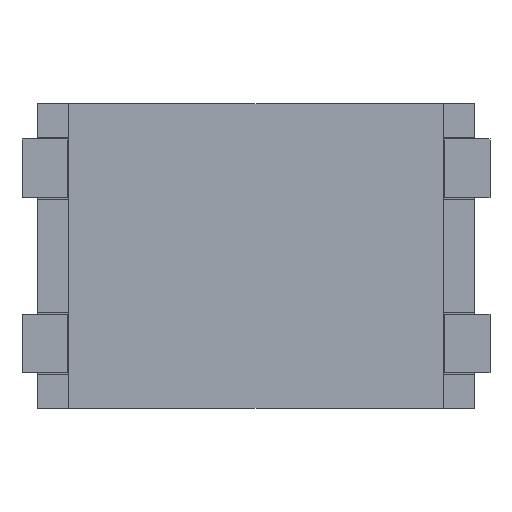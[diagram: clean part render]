
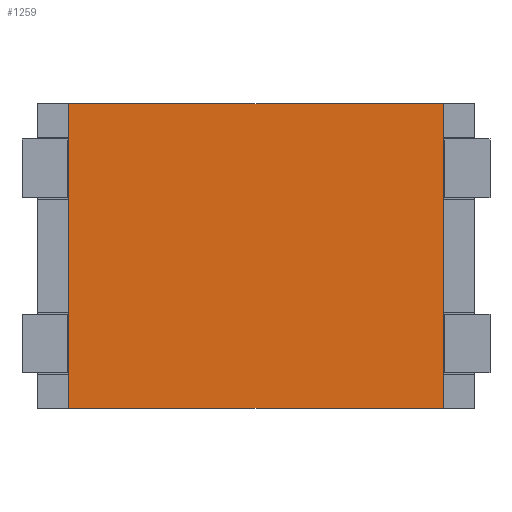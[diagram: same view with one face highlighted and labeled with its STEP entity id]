
A CAD part, front view. The second image highlights one B-rep face of the part: STEP entity #1259.
In plain terms, the highlighted planar face has unit normal (0, -1, 0).
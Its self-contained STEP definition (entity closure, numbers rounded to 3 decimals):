
#26=DIRECTION('',(1.,0.,0.));
#27=VECTOR('',#26,2.4);
#28=CARTESIAN_POINT('',(-1.2,0.,-0.975));
#29=LINE('',#28,#27);
#33=DIRECTION('',(0.,0.,-1.));
#34=VECTOR('',#33,1.95);
#35=CARTESIAN_POINT('',(-1.2,0.,0.975));
#36=LINE('',#35,#34);
#40=DIRECTION('',(-1.,0.,0.));
#41=VECTOR('',#40,2.4);
#42=CARTESIAN_POINT('',(1.2,0.,0.975));
#43=LINE('',#42,#41);
#47=DIRECTION('',(0.,0.,1.));
#48=VECTOR('',#47,1.95);
#49=CARTESIAN_POINT('',(1.2,0.,-0.975));
#50=LINE('',#49,#48);
#1056=CARTESIAN_POINT('',(-1.2,0.,-0.975));
#1057=CARTESIAN_POINT('',(1.2,0.,-0.975));
#1058=VERTEX_POINT('',#1056);
#1059=VERTEX_POINT('',#1057);
#1062=CARTESIAN_POINT('',(1.2,0.,0.975));
#1063=VERTEX_POINT('',#1062);
#1064=CARTESIAN_POINT('',(-1.2,0.,0.975));
#1065=VERTEX_POINT('',#1064);
#1244=CARTESIAN_POINT('',(0.,0.,0.));
#1245=DIRECTION('',(0.,1.,0.));
#1246=DIRECTION('',(1.,0.,0.));
#1247=AXIS2_PLACEMENT_3D('',#1244,#1245,#1246);
#1248=PLANE('',#1247);
#1250=ORIENTED_EDGE('',*,*,#1249,.F.);
#1252=ORIENTED_EDGE('',*,*,#1251,.F.);
#1254=ORIENTED_EDGE('',*,*,#1253,.F.);
#1256=ORIENTED_EDGE('',*,*,#1255,.F.);
#1257=EDGE_LOOP('',(#1250,#1252,#1254,#1256));
#1258=FACE_OUTER_BOUND('',#1257,.F.);
#1249=EDGE_CURVE('',#1058,#1059,#29,.T.);
#1251=EDGE_CURVE('',#1065,#1058,#36,.T.);
#1253=EDGE_CURVE('',#1063,#1065,#43,.T.);
#1255=EDGE_CURVE('',#1059,#1063,#50,.T.);
#1259=ADVANCED_FACE('',(#1258),#1248,.F.);
